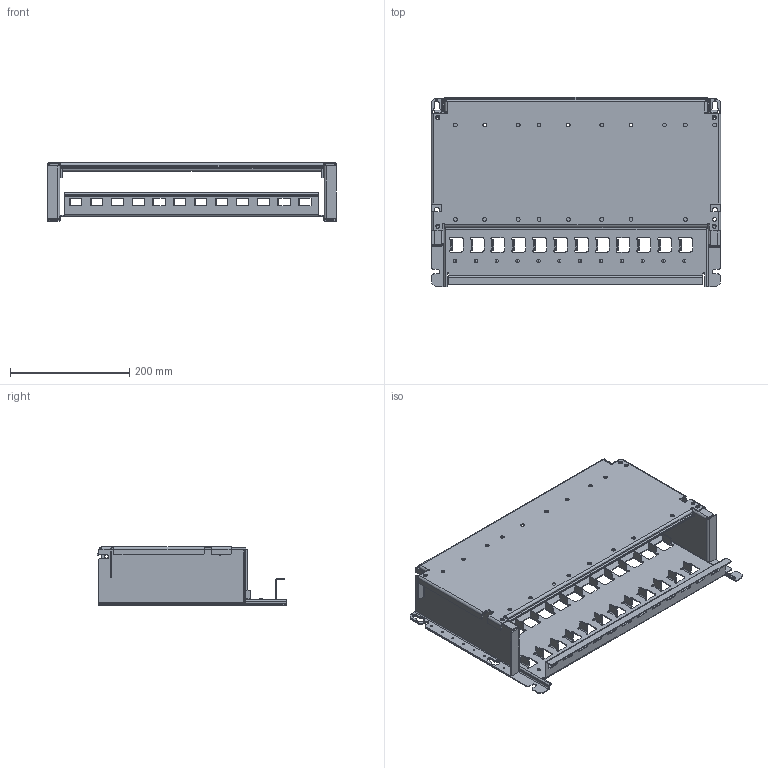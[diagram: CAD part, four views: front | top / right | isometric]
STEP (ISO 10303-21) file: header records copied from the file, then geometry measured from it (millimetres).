
FILE_DESCRIPTION((''),'2;1');
FILE_NAME('SLOT12_A10_ASM','2009-09-21T',('ABSchul1'),('Rockwell Automation'),'PRO/ENGINEER BY PARAMETRIC TECHNOLOGY CORPORATION, 2004320','PRO/ENGINEER BY PARAMETRIC TECHNOLOGY CORPORATION, 2004320','');
FILE_SCHEMA(('CONFIG_CONTROL_DESIGN'));
Length unit declared in the file: millimetre
Products named in the file (5): 10000026722; 10000026727; 10000026728; 10000026731; SLOT12_A10_ASM
Assembly tree (4 placements, depth 2):
  SLOT12_A10_ASM
    10000026722
    10000026727
    10000026728
    10000026731
Bounding box: 484.14 x 317.3 x 97.89 mm (x, y, z)
Surface area: 709358.8 mm2 (no closed solid volume)
Topology: 0 solids, 4 shells, 1765 faces, 4599 edges, 2794 vertices
Faces by surface type: plane 921, cylinder 741, sphere 96, bspline 7
Entity records: 54102 total; most frequent: DIRECTION 9641, CARTESIAN_POINT 9542, ORIENTED_EDGE 9006, EDGE_CURVE 4503, AXIS2_PLACEMENT_3D 3387, VECTOR 2867, LINE 2867, VERTEX_POINT 2794
